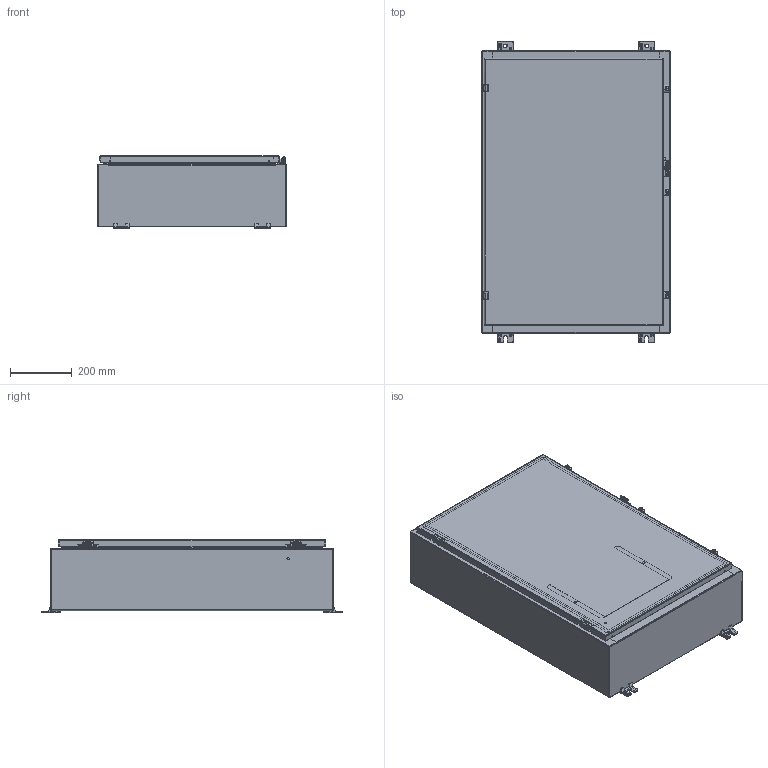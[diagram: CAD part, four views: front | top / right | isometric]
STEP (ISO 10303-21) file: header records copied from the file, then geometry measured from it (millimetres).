
FILE_DESCRIPTION((''),'2;1');
FILE_NAME('MODEL-309_ASM','2022-12-14T15:49:21',('johnh'),('SAGINAW CONTROL & ENGINEERING'),'CREO PARAMETRIC BY PTC INC, 2021284','CREO PARAMETRIC BY PTC INC, 2021284','');
FILE_SCHEMA(('AUTOMOTIVE_DESIGN { 1 0 10303 214 1 1 1 1 }'));
Length unit declared in the file: inch
Products named in the file (35): MODEL-309-BDY; MODEL-309-TP; MODEL-309-BTM; MODEL-309-DR; 100837; 100882; 111267; MODEL-309-DOOR-GASKET; 126391; 126391_ASM; 126393; 102483; 101226; 101376; 102140; 115117; MODEL-309-DOOR-ASSY_ASM; 128630; 100059; 128630_ASM; 100921; 128631; 128631_ASM; 101653; 121453; 120132_BASE; 120132_CLAMP; 120132_SCREW; 120132_SPRING; 120132_ASM; 120133; SUBPANEL; 100904; SUBPANEL-SUBASSEMBLY_ASM; MODEL-309_ASM
Assembly tree (71 placements, depth 4):
  MODEL-309_ASM
    MODEL-309-BDY
    MODEL-309-TP
    MODEL-309-BTM
    MODEL-309-DOOR-ASSY_ASM
      MODEL-309-DR
      100837  x3
      100882  x2
      111267
      MODEL-309-DOOR-GASKET
      126391_ASM  x2
        126391
      126393  x2
      102483  x7
      101226  x2
      101376  x2
      102140  x2
      115117
    128630_ASM  x2
      128630
      100059
    100921  x4
    128631_ASM  x2
      128631
      100059
    100837
    101653  x6
    121453
    120132_ASM  x3
      120132_BASE
      120132_CLAMP
      120132_SCREW
      120132_SPRING
    100882  x4
    120133
    SUBPANEL-SUBASSEMBLY_ASM
      SUBPANEL
      100904  x6
Bounding box: 609.6 x 977.9 x 237.31 mm (x, y, z)
Volume: 5720440.7 mm3; surface area: 5154863.2 mm2
Topology: 74 solids, 74 shells, 5462 faces, 14039 edges, 8823 vertices
Faces by surface type: plane 1988, cylinder 1438, bspline 1177, torus 578, cone 154, sphere 127
Entity records: 117709 total; most frequent: CARTESIAN_POINT 37056, ORIENTED_EDGE 11990, DIRECTION 11502, PRESENTATION_STYLE_ASSIGNMENT 6128, STYLED_ITEM 6128, CURVE_STYLE 5995, EDGE_CURVE 5995, AXIS2_PLACEMENT_3D 4248
